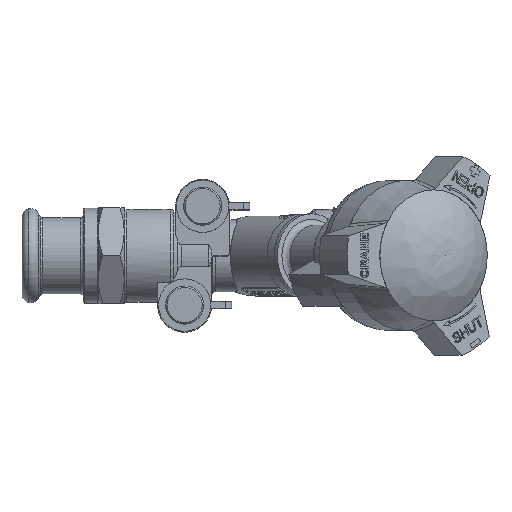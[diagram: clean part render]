
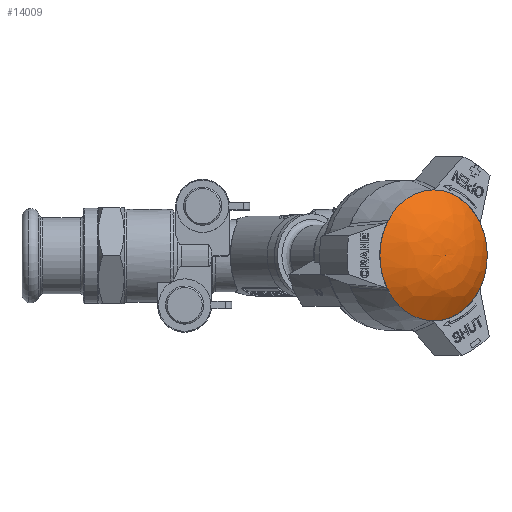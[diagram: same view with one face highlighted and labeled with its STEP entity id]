
A CAD part, top view. The second image highlights one B-rep face of the part: STEP entity #14009.
In plain terms, the highlighted free-form (B-spline) face has degree [2, 2] with [5, 9] control points.
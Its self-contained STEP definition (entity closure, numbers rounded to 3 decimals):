
#13920=CARTESIAN_POINT('',(16.012,21.882,85.8));
#13921=VERTEX_POINT('',#13920);
#13922=CARTESIAN_POINT('',(15.919,0.,85.865));
#13923=DIRECTION('',(0.574,0.,0.819));
#13924=DIRECTION('',(0.004,1.,-0.003));
#13925=AXIS2_PLACEMENT_3D('',#13922,#13923,#13924);
#13926=CIRCLE('',#13925,21.883);
#13927=EDGE_CURVE('',#13921,#13921,#13926,.T.);
#13953=CARTESIAN_POINT('',(30.801,-0.169,50.343));
#13954=CARTESIAN_POINT('',(37.077,-0.163,61.131));
#13955=CARTESIAN_POINT('',(33.876,-0.114,73.195));
#13956=CARTESIAN_POINT('',(30.675,-0.064,85.259));
#13957=CARTESIAN_POINT('',(19.877,0.,91.518));
#13958=CARTESIAN_POINT('',(30.662,-32.734,50.44));
#13959=CARTESIAN_POINT('',(36.943,-31.681,61.225));
#13960=CARTESIAN_POINT('',(33.783,-22.091,73.261));
#13961=CARTESIAN_POINT('',(30.623,-12.5,85.296));
#13962=CARTESIAN_POINT('',(19.877,0.,91.518));
#13963=CARTESIAN_POINT('',(3.987,-32.565,69.118));
#13964=CARTESIAN_POINT('',(11.125,-31.518,79.303));
#13965=CARTESIAN_POINT('',(15.781,-21.977,85.866));
#13966=CARTESIAN_POINT('',(20.436,-12.435,92.429));
#13967=CARTESIAN_POINT('',(19.877,0.,91.518));
#13968=CARTESIAN_POINT('',(-22.689,-32.396,87.797));
#13969=CARTESIAN_POINT('',(-14.693,-31.355,97.381));
#13970=CARTESIAN_POINT('',(-2.222,-21.863,98.471));
#13971=CARTESIAN_POINT('',(10.25,-12.371,99.561));
#13972=CARTESIAN_POINT('',(19.877,0.,91.518));
#13973=CARTESIAN_POINT('',(-22.551,0.169,87.7));
#13974=CARTESIAN_POINT('',(-14.559,0.163,97.287));
#13975=CARTESIAN_POINT('',(-2.128,0.114,98.406));
#13976=CARTESIAN_POINT('',(10.303,0.064,99.524));
#13977=CARTESIAN_POINT('',(19.877,0.,91.518));
#13978=CARTESIAN_POINT('',(-22.413,32.734,87.603));
#13979=CARTESIAN_POINT('',(-14.426,31.681,97.194));
#13980=CARTESIAN_POINT('',(-2.035,22.091,98.341));
#13981=CARTESIAN_POINT('',(10.355,12.5,99.487));
#13982=CARTESIAN_POINT('',(19.877,0.,91.518));
#13983=CARTESIAN_POINT('',(4.263,32.565,68.925));
#13984=CARTESIAN_POINT('',(11.392,31.518,79.116));
#13985=CARTESIAN_POINT('',(15.967,21.977,85.735));
#13986=CARTESIAN_POINT('',(20.542,12.435,92.355));
#13987=CARTESIAN_POINT('',(19.877,0.,91.518));
#13988=CARTESIAN_POINT('',(30.939,32.396,50.246));
#13989=CARTESIAN_POINT('',(37.21,31.355,61.038));
#13990=CARTESIAN_POINT('',(33.969,21.863,73.13));
#13991=CARTESIAN_POINT('',(30.728,12.371,85.222));
#13992=CARTESIAN_POINT('',(19.877,0.,91.518));
#13993=CARTESIAN_POINT('',(30.801,-0.169,50.343));
#13994=CARTESIAN_POINT('',(37.077,-0.163,61.131));
#13995=CARTESIAN_POINT('',(33.876,-0.114,73.195));
#13996=CARTESIAN_POINT('',(30.675,-0.064,85.259));
#13997=CARTESIAN_POINT('',(19.877,0.,91.518));
#14005=(BOUNDED_SURFACE()B_SPLINE_SURFACE(2,2,((#13953,#13958,#13963,#13968,#13973,#13978,#13983,#13988,#13993),(#13954,#13959,#13964,#13969,#13974,#13979,#13984,#13989,#13994),(#13955,#13960,#13965,#13970,#13975,#13980,#13985,#13990,#13995),(#13956,#13961,#13966,#13971,#13976,#13981,#13986,#13991,#13996),(#13957,#13962,#13967,#13972,#13977,#13982,#13987,#13992,#13997)),.UNSPECIFIED.,.F.,.T.,.U.)B_SPLINE_SURFACE_WITH_KNOTS((3,2,3),(3,2,2,2,3),(0.084,0.87,1.656),(0.0,1.571,3.142,4.712,6.283),.UNSPECIFIED.)GEOMETRIC_REPRESENTATION_ITEM()RATIONAL_B_SPLINE_SURFACE(((1.0,0.707,1.0,0.707,1.0,0.707,1.0,0.707,1.0),(0.924,0.653,0.924,0.653,0.924,0.653,0.924,0.653,0.924),(1.0,0.707,1.0,0.707,1.0,0.707,1.0,0.707,1.0),(0.924,0.653,0.924,0.653,0.924,0.653,0.924,0.653,0.924),(1.0,0.707,1.0,0.707,1.0,0.707,1.0,0.707,1.0)))REPRESENTATION_ITEM('')SURFACE());
#14006=ORIENTED_EDGE('',*,*,#13927,.T.);
#14007=EDGE_LOOP('',(#14006));
#14008=FACE_OUTER_BOUND('',#14007,.T.);
#14009=ADVANCED_FACE('',(#14008),#14005,.T.);
